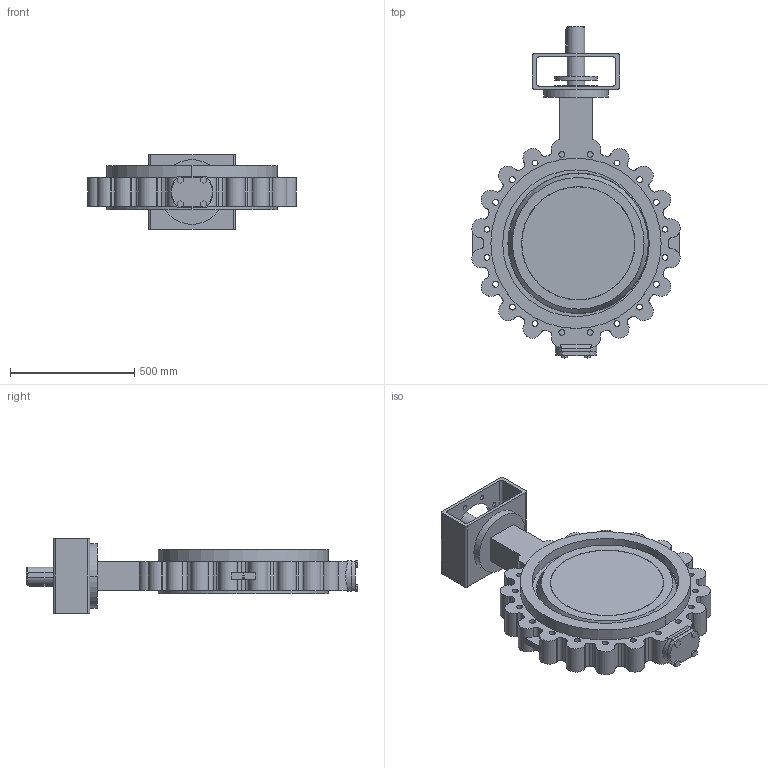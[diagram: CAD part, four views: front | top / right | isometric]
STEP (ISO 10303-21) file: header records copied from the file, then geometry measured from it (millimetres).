
FILE_DESCRIPTION( ( '' ), '1' );
FILE_NAME( 'F:/DE-SHS/TB/OR/04-Sonstiges/daten/files_3d/018_ZETRIX-PN10_freiesWellende/c000006356.stp', '2016-09-01T11:04:08', ( '' ), ( '' ), ' ', ' ', ' ' );
FILE_SCHEMA( ( 'CONFIG_CONTROL_DESIGN' ) );
Length unit declared in the file: millimetre
Products named in the file (1): 1
Bounding box: 837.48 x 1335 x 300 mm (x, y, z)
Volume: 66280877.9 mm3; surface area: 3033144.5 mm2
Topology: 1 solids, 1 shells, 356 faces, 990 edges, 658 vertices
Faces by surface type: cylinder 234, plane 114, cone 4, sphere 4
Entity records: 12646 total; most frequent: CARTESIAN_POINT 2903, DIRECTION 2170, ORIENTED_EDGE 1980, EDGE_CURVE 990, AXIS2_PLACEMENT_3D 855, VERTEX_POINT 658, CIRCLE 494, LINE 460
